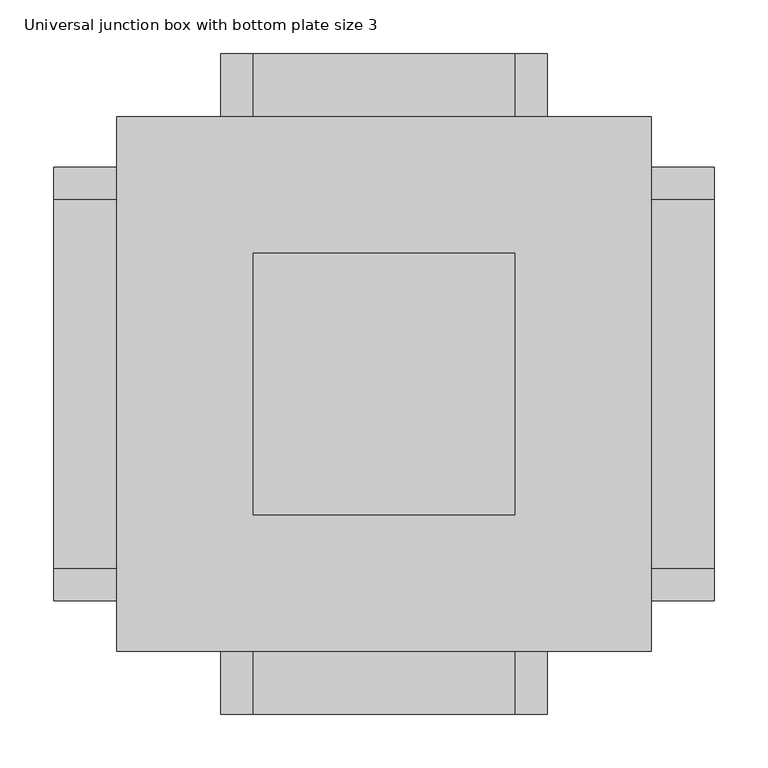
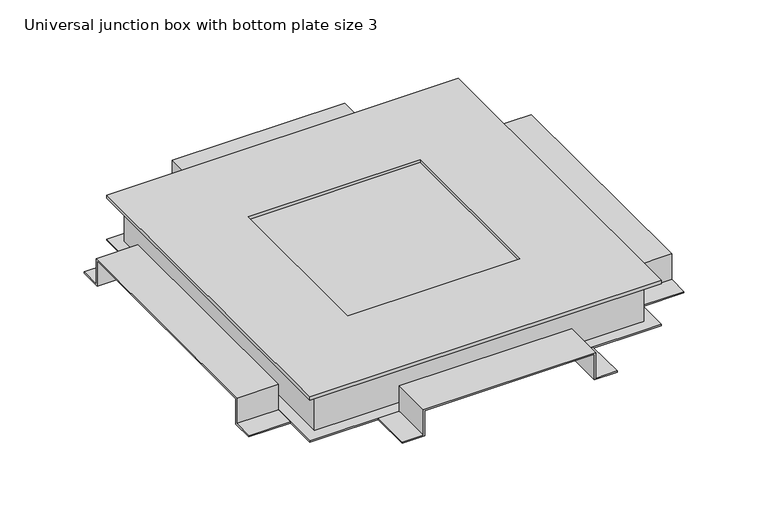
"""IFC4 building model written with IfcOpenShell, lengths in millimetres: cable carrier fitting geometry, Electrical-Installations_Hager_Universal-Junction-Box-With-Bottom-Plate-Size-3 : Universal junction box with bottom plate size 3."""

from ifc_helpers import new_model, si_unit, frame, origin, place, context, project, spatial, polyline, outline, extrude, faceted_brep, source, transform, mapped, element, save


def universal_junction_box_with_bottom_plate_size_3_e0c27931(model_context):
    return source(origin(), model_context, "Body", "SolidModel", [
        extrude(outline(polyline([(-19.0, -152.0), (-19.0, -120.0), (19.0, -120.0), (19.0, 120.0), (-19.0, 120.0), (-19.0, 152.0), (-17.0, 152.0), (-17.0, 122.0), (21.0, 122.0), (21.0, -122.0), (-17.0, -122.0), (-17.0, -152.0), (-19.0, -152.0)])), frame((0.0, 249.0, 0.0), z_axis=(0.0, 1.0, 0.0), x_axis=(0.0, 0.0, 1.0)), (0.0, 0.0, 1.0), 59.0),
        extrude(outline(polyline([(-202.0, -19.0), (-202.0, -17.0), (-172.0, -17.0), (-172.0, 21.0), (172.0, 21.0), (172.0, -17.0), (202.0, -17.0), (202.0, -19.0), (170.0, -19.0), (170.0, 19.0), (-170.0, 19.0), (-170.0, -19.0), (-202.0, -19.0)])), frame((-308.0, 0.0, 0.0), z_axis=(1.0, 0.0, 0.0), x_axis=(0.0, 1.0, 0.0)), (0.0, 0.0, 1.0), 59.0),
        extrude(outline(polyline([(-19.0, -152.0), (-19.0, -120.0), (19.0, -120.0), (19.0, 120.0), (-19.0, 120.0), (-19.0, 152.0), (-17.0, 152.0), (-17.0, 122.0), (21.0, 122.0), (21.0, -122.0), (-17.0, -122.0), (-17.0, -152.0), (-19.0, -152.0)])), frame((0.0, -308.0, 0.0), z_axis=(0.0, 1.0, 0.0), x_axis=(0.0, 0.0, 1.0)), (0.0, 0.0, 1.0), 59.0),
        extrude(outline(polyline([(-202.0, -19.0), (-202.0, -17.0), (-172.0, -17.0), (-172.0, 21.0), (172.0, 21.0), (172.0, -17.0), (202.0, -17.0), (202.0, -19.0), (170.0, -19.0), (170.0, 19.0), (-170.0, 19.0), (-170.0, -19.0), (-202.0, -19.0)])), frame((249.0, 0.0, 0.0), z_axis=(1.0, 0.0, 0.0), x_axis=(0.0, 1.0, 0.0)), (0.0, 0.0, 1.0), 59.0),
        faceted_brep([(-249.0, -249.0, 49.0), (249.0, -249.0, 49.0), (249.0, 249.0, 49.0), (-249.0, 249.0, 49.0), (-122.0, 122.0, 49.0), (122.0, 122.0, 49.0), (122.0, -122.0, 49.0), (-122.0, -122.0, 49.0), (-249.0, -249.0, 44.0), (-249.0, 249.0, 44.0), (249.0, 249.0, 44.0), (249.0, -249.0, 44.0), (227.0, 227.0, 44.0), (-227.0, 227.0, 44.0), (-227.0, -227.0, 44.0), (227.0, -227.0, 44.0), (-122.0, 122.0, 44.7820613), (122.0, 122.0, 44.7820613), (122.0, -122.0, 44.7820613), (-122.0, -122.0, 44.7820613), (227.0, 227.0, 44.7820613), (227.0, -227.0, 44.7820613), (-227.0, -227.0, 44.7820613), (-227.0, 227.0, 44.7820613)], [[[0, 1, 2, 3], [4, 5, 6, 7]], [[8, 9, 10, 11], [12, 13, 14, 15]], [[1, 0, 8, 11]], [[2, 1, 11, 10]], [[3, 2, 10, 9]], [[0, 3, 9, 8]], [[5, 4, 16, 17]], [[6, 5, 17, 18]], [[7, 6, 18, 19]], [[4, 7, 19, 16]], [[20, 21, 22, 23], [17, 16, 19, 18]], [[20, 23, 13, 12]], [[23, 22, 14, 13]], [[22, 21, 15, 14]], [[21, 20, 12, 15]]]),
        extrude(outline(polyline([(249.0, 249.0), (249.0, -249.0), (-249.0, -249.0), (-249.0, 249.0), (249.0, 249.0)])), frame((0.0, 0.0, -19.0), z_axis=(0.0, 0.0, 1.0), x_axis=(1.0, 0.0, 0.0)), (0.0, 0.0, 1.0), 2.0),
        faceted_brep([(-233.0, 233.0, 44.0), (-233.0, -233.0, 44.0), (233.0, -233.0, 44.0), (233.0, 233.0, 44.0), (-227.0, 227.0, 44.0), (227.0, 227.0, 44.0), (227.0, -227.0, 44.0), (-227.0, -227.0, 44.0), (-233.0, 233.0, -19.0), (233.0, 233.0, -19.0), (233.0, -233.0, -19.0), (-233.0, -233.0, -19.0), (227.0, 227.0, -11.1362798), (-227.0, 227.0, -11.1362798), (-227.0, -227.0, -11.1362798), (227.0, -227.0, -11.1362798)], [[[0, 1, 2, 3], [4, 5, 6, 7]], [[8, 9, 10, 11]], [[1, 0, 8, 11]], [[2, 1, 11, 10]], [[3, 2, 10, 9]], [[0, 3, 9, 8]], [[12, 13, 14, 15]], [[13, 12, 5, 4]], [[14, 13, 4, 7]], [[15, 14, 7, 6]], [[12, 15, 6, 5]]]),
    ])


if __name__ == "__main__":
    model = new_model("IFC4")
    model_context = context("Model", 3, world=origin())
    ifc_project = project(units=[si_unit("LENGTHUNIT", "METRE", prefix="MILLI")], contexts=[model_context])
    site = spatial("IfcSite", under=ifc_project)
    building = spatial("IfcBuilding", under=site)
    placement = place(None, origin())
    universal_junction_box_with_bottom_plate_size_3_shape = universal_junction_box_with_bottom_plate_size_3_e0c27931(model_context)
    element("IfcCableCarrierFitting", 1, ObjectType="Electrical-Installations_Hager_Universal-Junction-Box-With-Bottom-Plate-Size-3 : Universal junction box with bottom plate size 3", at=placement, inside=building, context=model_context, shape_type="MappedRepresentation", body=[
        mapped(universal_junction_box_with_bottom_plate_size_3_shape, transform((0.0, 0.0, 0.0), x_axis=(1.0, 0.0, 0.0), y_axis=(0.0, 1.0, 0.0), z_axis=(0.0, 0.0, 1.0))),
    ])
    save(model, "model.ifc")
